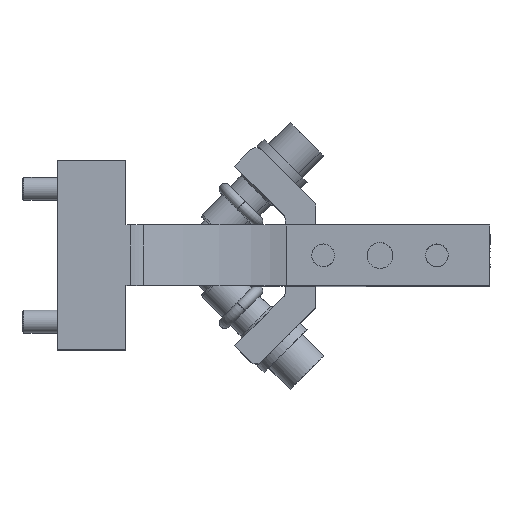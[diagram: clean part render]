
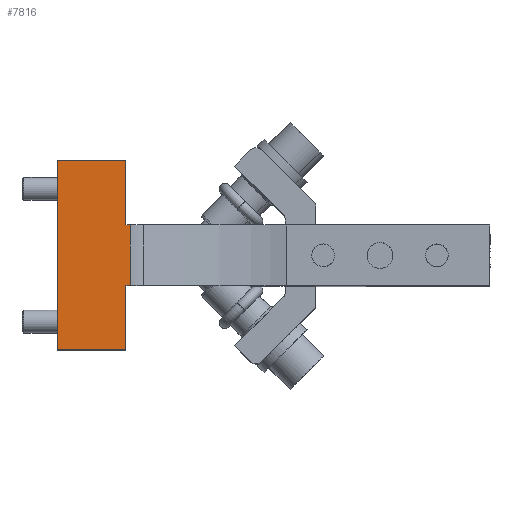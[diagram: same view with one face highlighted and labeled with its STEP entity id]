
A CAD part, top view. The second image highlights one B-rep face of the part: STEP entity #7816.
In plain terms, the highlighted planar face has unit normal (0, 0, 1) as drawn and (0, 0, -1) by its records, which use the part's own axes.
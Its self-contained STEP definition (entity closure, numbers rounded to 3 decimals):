
#7778=AXIS2_PLACEMENT_3D('Plane Axis2P3D',#7775,#7776,#7777) ;
#6786=CARTESIAN_POINT('Vertex',(-15.8,8.,194.)) ;
#6790=CARTESIAN_POINT('Control Point',(-17.,8.,194.)) ;
#6791=CARTESIAN_POINT('Control Point',(-15.8,8.,194.)) ;
#6792=CARTESIAN_POINT('Vertex',(-17.,8.,194.)) ;
#7064=CARTESIAN_POINT('Vertex',(-17.,-8.,194.)) ;
#7068=CARTESIAN_POINT('Control Point',(-17.,-8.,194.)) ;
#7069=CARTESIAN_POINT('Control Point',(-15.8,-8.,194.)) ;
#7070=CARTESIAN_POINT('Vertex',(-15.8,-8.,194.)) ;
#7727=CARTESIAN_POINT('Control Point',(-17.,8.,194.)) ;
#7728=CARTESIAN_POINT('Control Point',(-17.,25.,194.)) ;
#7729=CARTESIAN_POINT('Vertex',(-17.,25.,194.)) ;
#7775=CARTESIAN_POINT('Axis2P3D Location',(-17.,0.,194.)) ;
#7781=CARTESIAN_POINT('Control Point',(-35.,-25.,194.)) ;
#7782=CARTESIAN_POINT('Control Point',(-17.,-25.,194.)) ;
#7783=CARTESIAN_POINT('Vertex',(-35.,-25.,194.)) ;
#7785=CARTESIAN_POINT('Vertex',(-17.,-25.,194.)) ;
#7789=CARTESIAN_POINT('Control Point',(-35.,-25.,194.)) ;
#7790=CARTESIAN_POINT('Control Point',(-35.,25.,194.)) ;
#7791=CARTESIAN_POINT('Vertex',(-35.,25.,194.)) ;
#7795=CARTESIAN_POINT('Control Point',(-35.,25.,194.)) ;
#7796=CARTESIAN_POINT('Control Point',(-17.,25.,194.)) ;
#7799=CARTESIAN_POINT('Control Point',(-15.8,-8.,194.)) ;
#7800=CARTESIAN_POINT('Control Point',(-15.8,8.,194.)) ;
#7803=CARTESIAN_POINT('Control Point',(-17.,-25.,194.)) ;
#7804=CARTESIAN_POINT('Control Point',(-17.,-8.,194.)) ;
#7776=DIRECTION('Axis2P3D Direction',(0.,0.,-1.)) ;
#7777=DIRECTION('Axis2P3D XDirection',(-1.,0.,0.)) ;
#7807=ORIENTED_EDGE('',*,*,#7787,.F.) ;
#7808=ORIENTED_EDGE('',*,*,#7793,.T.) ;
#7809=ORIENTED_EDGE('',*,*,#7797,.T.) ;
#7810=ORIENTED_EDGE('',*,*,#7731,.F.) ;
#7811=ORIENTED_EDGE('',*,*,#6794,.T.) ;
#7812=ORIENTED_EDGE('',*,*,#7801,.F.) ;
#7813=ORIENTED_EDGE('',*,*,#7072,.F.) ;
#7814=ORIENTED_EDGE('',*,*,#7805,.F.) ;
#7816=ADVANCED_FACE('PartBody',(#7815),#7779,.T.) ;
#6789=B_SPLINE_CURVE_WITH_KNOTS('',1,(#6790,#6791),.UNSPECIFIED.,.F.,.U.,(2,2),(0.,1.2),.UNSPECIFIED.) ;
#7067=B_SPLINE_CURVE_WITH_KNOTS('',1,(#7068,#7069),.UNSPECIFIED.,.F.,.U.,(2,2),(0.,1.2),.UNSPECIFIED.) ;
#7726=B_SPLINE_CURVE_WITH_KNOTS('',1,(#7727,#7728),.UNSPECIFIED.,.F.,.U.,(2,2),(0.,17.),.UNSPECIFIED.) ;
#7780=B_SPLINE_CURVE_WITH_KNOTS('',1,(#7781,#7782),.UNSPECIFIED.,.F.,.U.,(2,2),(0.,18.),.UNSPECIFIED.) ;
#7788=B_SPLINE_CURVE_WITH_KNOTS('',1,(#7789,#7790),.UNSPECIFIED.,.F.,.U.,(2,2),(0.,50.),.UNSPECIFIED.) ;
#7794=B_SPLINE_CURVE_WITH_KNOTS('',1,(#7795,#7796),.UNSPECIFIED.,.F.,.U.,(2,2),(0.,18.),.UNSPECIFIED.) ;
#7798=B_SPLINE_CURVE_WITH_KNOTS('',1,(#7799,#7800),.UNSPECIFIED.,.F.,.U.,(2,2),(0.,16.),.UNSPECIFIED.) ;
#7802=B_SPLINE_CURVE_WITH_KNOTS('',1,(#7803,#7804),.UNSPECIFIED.,.F.,.U.,(2,2),(0.,17.),.UNSPECIFIED.) ;
#6794=EDGE_CURVE('',#6793,#6787,#6789,.T.) ;
#7072=EDGE_CURVE('',#7065,#7071,#7067,.T.) ;
#7731=EDGE_CURVE('',#6793,#7730,#7726,.T.) ;
#7787=EDGE_CURVE('',#7784,#7786,#7780,.T.) ;
#7793=EDGE_CURVE('',#7784,#7792,#7788,.T.) ;
#7797=EDGE_CURVE('',#7792,#7730,#7794,.T.) ;
#7801=EDGE_CURVE('',#7071,#6787,#7798,.T.) ;
#7805=EDGE_CURVE('',#7786,#7065,#7802,.T.) ;
#7806=EDGE_LOOP('',(#7807,#7808,#7809,#7810,#7811,#7812,#7813,#7814)) ;
#7815=FACE_OUTER_BOUND('',#7806,.T.) ;
#7779=PLANE('',#7778) ;
#6787=VERTEX_POINT('',#6786) ;
#6793=VERTEX_POINT('',#6792) ;
#7065=VERTEX_POINT('',#7064) ;
#7071=VERTEX_POINT('',#7070) ;
#7730=VERTEX_POINT('',#7729) ;
#7784=VERTEX_POINT('',#7783) ;
#7786=VERTEX_POINT('',#7785) ;
#7792=VERTEX_POINT('',#7791) ;
